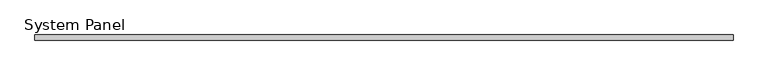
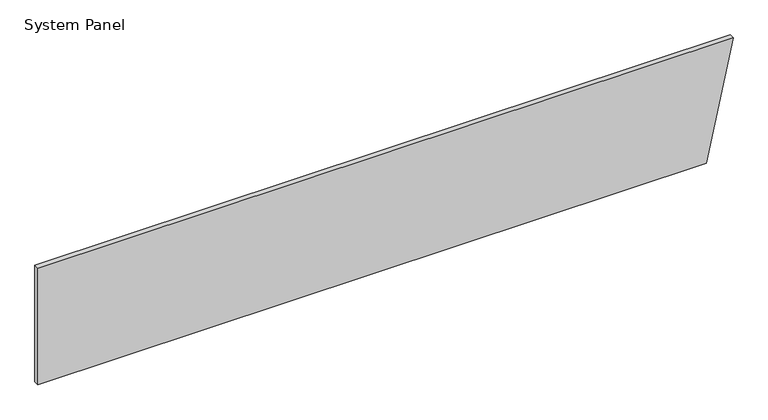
"""IFC4 building model written with IfcOpenShell, lengths in millimetres: plate geometry, System Panel : Equitilt_FlameGuard_50mm_Plain_Surfmist."""

from ifc_helpers import new_model, si_unit, frame, origin, place, context, project, spatial, polyline, outline, extrude, source, transform, mapped, element, save


def system_panel_d230c9b8(model_context):
    return source(origin(), model_context, "Body", "SweptSolid", [
        extrude(outline(polyline([(0.0, -3386.3074928), (0.0, 3125.4358309), (1200.0, 3386.3074928), (1200.0, -3386.3074928), (0.0, -3386.3074928)])), frame((0.0, -50.0, 0.0), z_axis=(0.0, 1.0, 0.0), x_axis=(0.0, 0.0, 1.0)), (0.0, 0.0, 1.0), 50.0),
    ])


if __name__ == "__main__":
    model = new_model("IFC4")
    model_context = context("Model", 3, world=origin())
    ifc_project = project(units=[si_unit("LENGTHUNIT", "METRE", prefix="MILLI")], contexts=[model_context])
    site = spatial("IfcSite", under=ifc_project)
    building = spatial("IfcBuilding", under=site)
    placement = place(None, origin())
    system_panel_shape = system_panel_d230c9b8(model_context)
    element("IfcPlate", 1, ObjectType="System Panel : Equitilt_FlameGuard_50mm_Plain_Surfmist", at=placement, inside=building, context=model_context, shape_type="MappedRepresentation", body=[
        mapped(system_panel_shape, transform((0.0, 0.0, 0.0), x_axis=(1.0, 0.0, 0.0), y_axis=(0.0, 1.0, 0.0), z_axis=(0.0, 0.0, 1.0))),
    ])
    save(model, "model.ifc")
